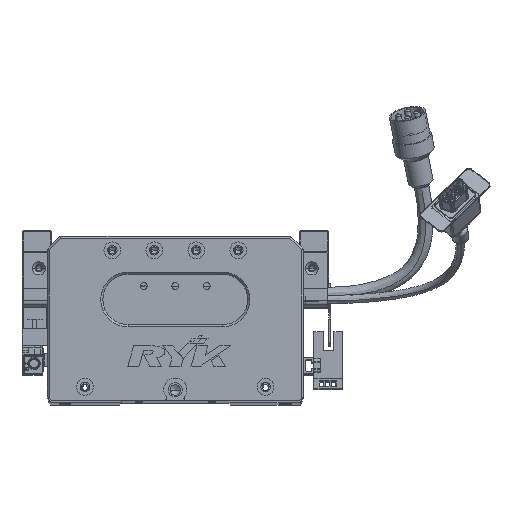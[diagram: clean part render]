
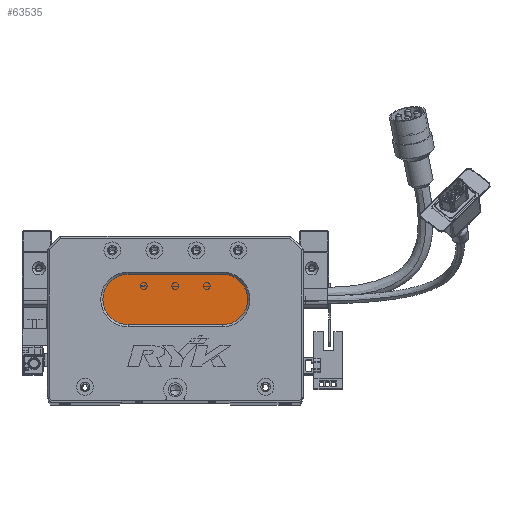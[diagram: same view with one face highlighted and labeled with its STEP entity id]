
A CAD part, top view. The second image highlights one B-rep face of the part: STEP entity #63535.
In plain terms, the highlighted planar face has unit normal (0, 0, 1) as drawn and (0, 0, -1) by its records, which use the part's own axes.
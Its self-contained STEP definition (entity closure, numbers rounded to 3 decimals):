
#789 = DIRECTION ( 'NONE',  ( -1., 0., 0. ) ) ;
#3460 = ORIENTED_EDGE ( 'NONE', *, *, #12771, .T. ) ;
#3773 = CARTESIAN_POINT ( 'NONE',  ( 83.5, 48., 13. ) ) ;
#3958 = CARTESIAN_POINT ( 'NONE',  ( 38.5, 36., 13. ) ) ;
#6764 = AXIS2_PLACEMENT_3D ( 'NONE', #33770, #21856, #22389 ) ;
#7724 = DIRECTION ( 'NONE',  ( 0., 0., -1. ) ) ;
#9902 = DIRECTION ( 'NONE',  ( -1., 0., 0. ) ) ;
#9924 = EDGE_LOOP ( 'NONE', ( #42541, #28027, #18526, #54576, #3460 ) ) ;
#12161 = VERTEX_POINT ( 'NONE', #57579 ) ;
#12771 = EDGE_CURVE ( 'NONE', #12161, #33073, #58363, .T. ) ;
#18207 = VERTEX_POINT ( 'NONE', #71876 ) ;
#18526 = ORIENTED_EDGE ( 'NONE', *, *, #74770, .T. ) ;
#19462 = EDGE_CURVE ( 'NONE', #33073, #33032, #21496, .T. ) ;
#21496 = CIRCLE ( 'NONE', #6764, 12. ) ;
#21856 = DIRECTION ( 'NONE',  ( 0., 0., -1. ) ) ;
#21909 = FACE_OUTER_BOUND ( 'NONE', #9924, .T. ) ;
#22389 = DIRECTION ( 'NONE',  ( -1., 0., 0. ) ) ;
#23046 = DIRECTION ( 'NONE',  ( -1., 0., 0. ) ) ;
#28027 = ORIENTED_EDGE ( 'NONE', *, *, #28386, .T. ) ;
#28386 = EDGE_CURVE ( 'NONE', #33032, #74993, #55539, .T. ) ;
#29873 = CARTESIAN_POINT ( 'NONE',  ( 83.5, 36., 13. ) ) ;
#30527 = CARTESIAN_POINT ( 'NONE',  ( 83.5, 36., 13. ) ) ;
#33032 = VERTEX_POINT ( 'NONE', #30527 ) ;
#33073 = VERTEX_POINT ( 'NONE', #67973 ) ;
#33770 = CARTESIAN_POINT ( 'NONE',  ( 83.5, 48., 13. ) ) ;
#34006 = PLANE ( 'NONE',  #46718 ) ;
#36255 = CIRCLE ( 'NONE', #49869, 12. ) ;
#37642 = CARTESIAN_POINT ( 'NONE',  ( 38.5, 48., 13. ) ) ;
#37900 = CARTESIAN_POINT ( 'NONE',  ( 38.5, 48., 13. ) ) ;
#37913 = DIRECTION ( 'NONE',  ( 0., 0., -1. ) ) ;
#42541 = ORIENTED_EDGE ( 'NONE', *, *, #19462, .T. ) ;
#44721 = CARTESIAN_POINT ( 'NONE',  ( 83.5, 60., 13. ) ) ;
#46189 = DIRECTION ( 'NONE',  ( 0., 0., -1. ) ) ;
#46718 = AXIS2_PLACEMENT_3D ( 'NONE', #3773, #46189, #9902 ) ;
#49869 = AXIS2_PLACEMENT_3D ( 'NONE', #37642, #37913, #73853 ) ;
#53621 = VECTOR ( 'NONE', #23046, 1000. ) ;
#54576 = ORIENTED_EDGE ( 'NONE', *, *, #65445, .T. ) ;
#55539 = LINE ( 'NONE', #29873, #53621 ) ;
#57579 = CARTESIAN_POINT ( 'NONE',  ( 38.5, 60., 13. ) ) ;
#58363 = LINE ( 'NONE', #44721, #72567 ) ;
#58369 = CIRCLE ( 'NONE', #59076, 12. ) ;
#59076 = AXIS2_PLACEMENT_3D ( 'NONE', #37900, #7724, #789 ) ;
#63116 = DIRECTION ( 'NONE',  ( 1., 0., 0. ) ) ;
#63535 = ADVANCED_FACE ( 'NONE', ( #21909 ), #34006, .T. ) ;
#65445 = EDGE_CURVE ( 'NONE', #18207, #12161, #58369, .T. ) ;
#67973 = CARTESIAN_POINT ( 'NONE',  ( 83.5, 60., 13. ) ) ;
#71876 = CARTESIAN_POINT ( 'NONE',  ( 26.5, 48., 13. ) ) ;
#72567 = VECTOR ( 'NONE', #63116, 1000. ) ;
#73853 = DIRECTION ( 'NONE',  ( -1., 0., 0. ) ) ;
#74770 = EDGE_CURVE ( 'NONE', #74993, #18207, #36255, .T. ) ;
#74993 = VERTEX_POINT ( 'NONE', #3958 ) ;
